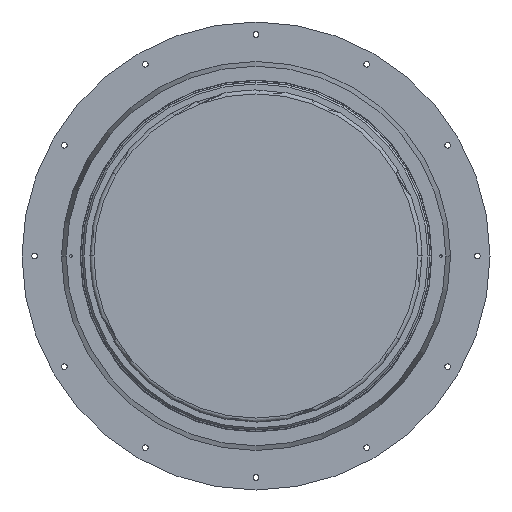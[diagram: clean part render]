
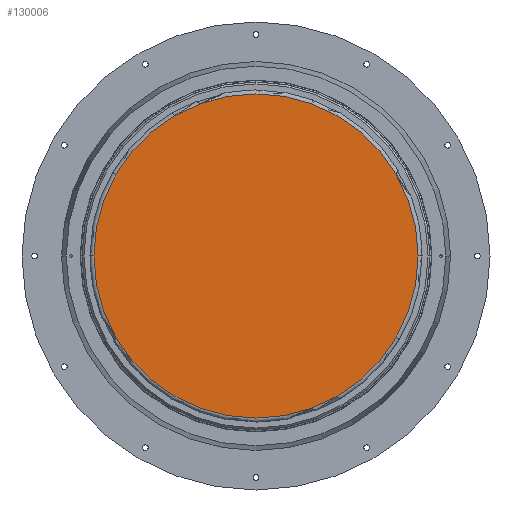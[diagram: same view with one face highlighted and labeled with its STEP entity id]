
A CAD part, front view. The second image highlights one B-rep face of the part: STEP entity #130006.
In plain terms, the highlighted planar face has unit normal (0, -1, 0).
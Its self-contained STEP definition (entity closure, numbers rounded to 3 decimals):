
#282 = CARTESIAN_POINT ( 'NONE',  ( -512.5, 0., 0. ) ) ;
#8450 = AXIS2_PLACEMENT_3D ( 'NONE', #42514, #129337, #54982 ) ;
#8857 = CARTESIAN_POINT ( 'NONE',  ( 0., 0., 0. ) ) ;
#11995 = CARTESIAN_POINT ( 'NONE',  ( 512.5, 0., 0. ) ) ;
#19544 = AXIS2_PLACEMENT_3D ( 'NONE', #118699, #44454, #131303 ) ;
#21272 = DIRECTION ( 'NONE',  ( 0., 0., 1. ) ) ;
#23892 = EDGE_CURVE ( 'NONE', #80584, #150863, #109878, .T. ) ;
#26284 = AXIS2_PLACEMENT_3D ( 'NONE', #8857, #95473, #21272 ) ;
#42514 = CARTESIAN_POINT ( 'NONE',  ( 0., 0., 0. ) ) ;
#44454 = DIRECTION ( 'NONE',  ( 0., -1., 0. ) ) ;
#46944 = ORIENTED_EDGE ( 'NONE', *, *, #23892, .T. ) ;
#54982 = DIRECTION ( 'NONE',  ( 0., 0., 1. ) ) ;
#57861 = EDGE_CURVE ( 'NONE', #150863, #80584, #114141, .T. ) ;
#80584 = VERTEX_POINT ( 'NONE', #11995 ) ;
#83761 = ORIENTED_EDGE ( 'NONE', *, *, #57861, .T. ) ;
#95473 = DIRECTION ( 'NONE',  ( 0., -1., 0. ) ) ;
#103776 = PLANE ( 'NONE',  #8450 ) ;
#109878 = CIRCLE ( 'NONE', #19544, 512.5 ) ;
#114141 = CIRCLE ( 'NONE', #26284, 512.5 ) ;
#118699 = CARTESIAN_POINT ( 'NONE',  ( 0., 0., 0. ) ) ;
#119350 = FACE_OUTER_BOUND ( 'NONE', #150491, .T. ) ;
#129337 = DIRECTION ( 'NONE',  ( 0., -1., 0. ) ) ;
#130006 = ADVANCED_FACE ( 'NONE', ( #119350 ), #103776, .T. ) ;
#131303 = DIRECTION ( 'NONE',  ( 0., 0., 1. ) ) ;
#150491 = EDGE_LOOP ( 'NONE', ( #83761, #46944 ) ) ;
#150863 = VERTEX_POINT ( 'NONE', #282 ) ;
